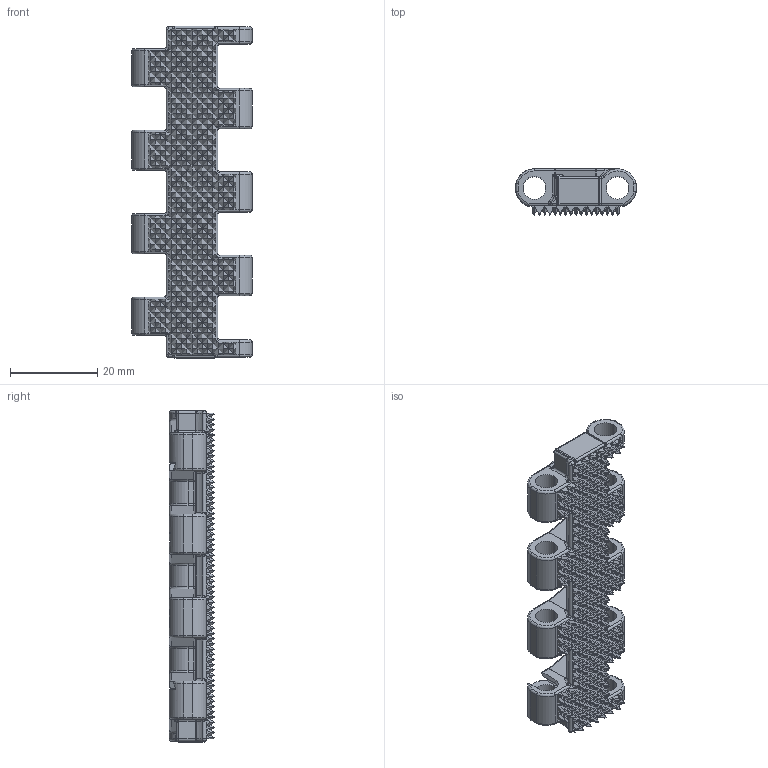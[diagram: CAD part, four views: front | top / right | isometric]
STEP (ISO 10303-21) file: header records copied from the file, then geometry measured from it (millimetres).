
FILE_DESCRIPTION((''),'2;1');
FILE_NAME('P152','2013-09-27T',('mth'),(''),'PRO/ENGINEER BY PARAMETRIC TECHNOLOGY CORPORATION, 2013230','PRO/ENGINEER BY PARAMETRIC TECHNOLOGY CORPORATION, 2013230','');
FILE_SCHEMA(('AUTOMOTIVE_DESIGN { 1 0 10303 214 1 1 1 1 }'));
Products named in the file (1): P152
Bounding box: 27.53 x 10.5 x 76 mm (x, y, z)
Volume: 6632.3 mm3; surface area: 8534.3 mm2
Topology: 1 solids, 1 shells, 2827 faces, 5145 edges, 2329 vertices
Faces by surface type: plane 2242, cylinder 303, torus 138, bspline 91, sphere 51, cone 2
Entity records: 71345 total; most frequent: CARTESIAN_POINT 18332, DIRECTION 11001, ORIENTED_EDGE 10290, EDGE_CURVE 5145, VECTOR 4023, LINE 4023, AXIS2_PLACEMENT_3D 3489, EDGE_LOOP 2854
